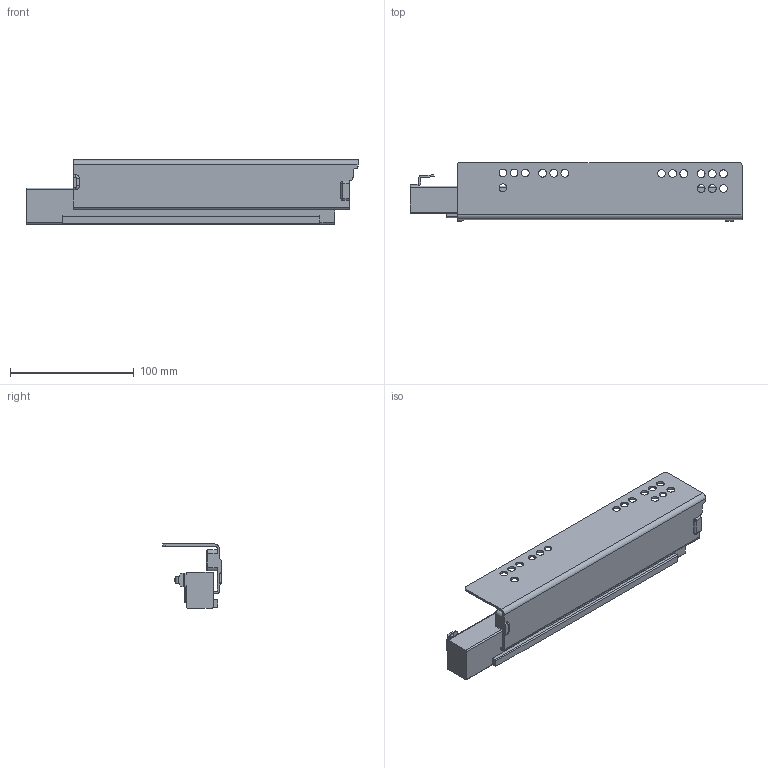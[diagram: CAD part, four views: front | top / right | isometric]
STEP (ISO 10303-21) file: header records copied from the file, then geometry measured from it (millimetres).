
FILE_DESCRIPTION (( 'STEP AP203' ), '1' );
FILE_NAME ('HT102704H-L(敕磁).STEP', '2021-07-31T01:12:46', ( 'Users' ), ( 'Microsoft' ), 'SwSTEP 2.0', 'SolidWorks 2018', '' );
FILE_SCHEMA (( 'CONFIG_CONTROL_DESIGN' ));
Length unit declared in the file: millimetre
Products named in the file (1): HT102704H-L(敕磁)
Bounding box: 268 x 47.5 x 51.73 mm (x, y, z)
Volume: 226936.7 mm3; surface area: 71107.3 mm2
Topology: 1 solids, 1 shells, 193 faces, 511 edges, 320 vertices
Faces by surface type: cylinder 86, plane 61, cone 32, torus 12, sphere 2
Entity records: 6122 total; most frequent: DIRECTION 1114, CARTESIAN_POINT 1038, ORIENTED_EDGE 1018, EDGE_CURVE 509, AXIS2_PLACEMENT_3D 416, VERTEX_POINT 320, VECTOR 282, LINE 282
